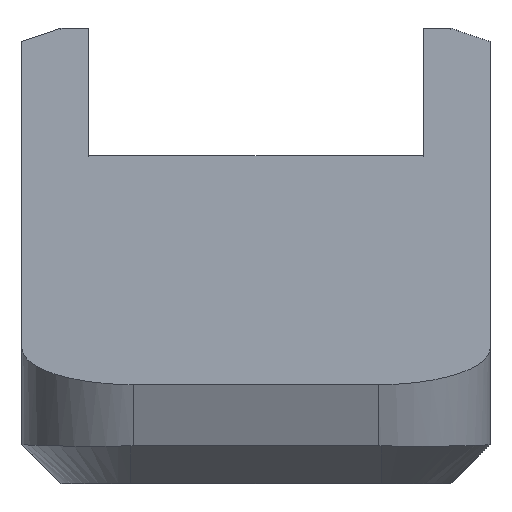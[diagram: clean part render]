
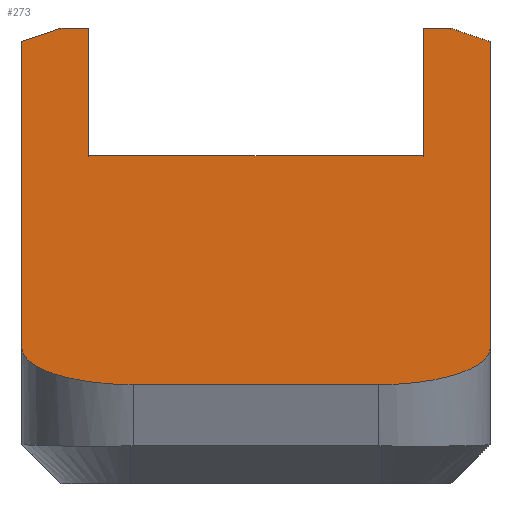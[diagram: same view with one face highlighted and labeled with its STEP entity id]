
A CAD part, front view. The second image highlights one B-rep face of the part: STEP entity #273.
In plain terms, the highlighted planar face has unit normal (0, -0.322, 0.947).
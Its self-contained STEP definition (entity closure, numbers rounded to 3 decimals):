
#121=CARTESIAN_POINT('',(-14.,609.2,-171.56));
#122=VERTEX_POINT('',#121);
#123=CARTESIAN_POINT('',(-12.,609.2,-171.56));
#124=VERTEX_POINT('',#123);
#125=CARTESIAN_POINT('',(-14.,609.2,-171.56));
#126=DIRECTION('',(1.,0.,-0.));
#127=VECTOR('',#126,2.);
#128=LINE('',#125,#127);
#129=EDGE_CURVE('',#122,#124,#128,.T.);
#147=CARTESIAN_POINT('',(12.,609.2,-171.56));
#148=VERTEX_POINT('',#147);
#155=CARTESIAN_POINT('',(14.,609.2,-171.56));
#156=VERTEX_POINT('',#155);
#157=CARTESIAN_POINT('',(12.,609.2,-171.56));
#158=DIRECTION('',(1.,0.,-0.));
#159=VECTOR('',#158,2.);
#160=LINE('',#157,#159);
#161=EDGE_CURVE('',#148,#156,#160,.T.);
#188=CARTESIAN_POINT('',(-17.,571.624,-184.344));
#189=DIRECTION('',(0.,0.322,-0.947));
#190=DIRECTION('',(0.,0.947,0.322));
#191=AXIS2_PLACEMENT_3D('',#188,#189,#190);
#192=PLANE('',#191);
#193=CARTESIAN_POINT('',(-12.,582.32,-180.705));
#194=VERTEX_POINT('',#193);
#195=CARTESIAN_POINT('',(12.,582.32,-180.705));
#196=VERTEX_POINT('',#195);
#197=CARTESIAN_POINT('',(-12.,582.32,-180.705));
#198=DIRECTION('',(1.,-0.,-0.));
#199=VECTOR('',#198,24.);
#200=LINE('',#197,#199);
#201=EDGE_CURVE('',#194,#196,#200,.T.);
#202=ORIENTED_EDGE('',*,*,#201,.F.);
#203=CARTESIAN_POINT('',(-12.,582.32,-180.705));
#204=DIRECTION('',(0.,0.947,0.322));
#205=VECTOR('',#204,28.393);
#206=LINE('',#203,#205);
#207=EDGE_CURVE('',#194,#124,#206,.T.);
#208=ORIENTED_EDGE('',*,*,#207,.T.);
#209=ORIENTED_EDGE('',*,*,#129,.F.);
#210=CARTESIAN_POINT('',(-16.8,606.4,-172.513));
#211=VERTEX_POINT('',#210);
#212=CARTESIAN_POINT('',(-14.,609.2,-171.56));
#213=DIRECTION('',(-0.687,-0.687,-0.234));
#214=VECTOR('',#213,4.073);
#215=LINE('',#212,#214);
#216=EDGE_CURVE('',#122,#211,#215,.T.);
#217=ORIENTED_EDGE('',*,*,#216,.T.);
#218=CARTESIAN_POINT('',(-16.8,541.619,-194.553));
#219=VERTEX_POINT('',#218);
#220=CARTESIAN_POINT('',(-16.8,541.619,-194.553));
#221=DIRECTION('',(0.,0.947,0.322));
#222=VECTOR('',#221,68.427);
#223=LINE('',#220,#222);
#224=EDGE_CURVE('',#219,#211,#223,.T.);
#225=ORIENTED_EDGE('',*,*,#224,.F.);
#226=CARTESIAN_POINT('',(-8.8,534.004,-197.144));
#227=VERTEX_POINT('',#226);
#228=CARTESIAN_POINT('',(-16.8,541.619,-194.553));
#229=CARTESIAN_POINT('',(-16.8,534.004,-197.144));
#230=CARTESIAN_POINT('',(-8.8,534.004,-197.144));
#231=(BOUNDED_CURVE()
B_SPLINE_CURVE(2,(#228,#229,#230),.UNSPECIFIED.,.F.,.F.)
B_SPLINE_CURVE_WITH_KNOTS((3,3),(270.,360.),.UNSPECIFIED.)
CURVE()
GEOMETRIC_REPRESENTATION_ITEM()
RATIONAL_B_SPLINE_CURVE((1.,0.707,1.))
REPRESENTATION_ITEM(''));
#232=EDGE_CURVE('',#219,#227,#231,.T.);
#233=ORIENTED_EDGE('',*,*,#232,.T.);
#234=CARTESIAN_POINT('',(8.8,534.004,-197.144));
#235=VERTEX_POINT('',#234);
#236=CARTESIAN_POINT('',(-8.8,534.004,-197.144));
#237=DIRECTION('',(1.,0.,-0.));
#238=VECTOR('',#237,17.6);
#239=LINE('',#236,#238);
#240=EDGE_CURVE('',#227,#235,#239,.T.);
#241=ORIENTED_EDGE('',*,*,#240,.T.);
#242=CARTESIAN_POINT('',(16.8,541.619,-194.553));
#243=VERTEX_POINT('',#242);
#244=CARTESIAN_POINT('',(8.8,534.004,-197.144));
#245=CARTESIAN_POINT('',(16.8,534.004,-197.144));
#246=CARTESIAN_POINT('',(16.8,541.619,-194.553));
#247=(BOUNDED_CURVE()
B_SPLINE_CURVE(2,(#244,#245,#246),.UNSPECIFIED.,.F.,.F.)
B_SPLINE_CURVE_WITH_KNOTS((3,3),(180.,270.),.UNSPECIFIED.)
CURVE()
GEOMETRIC_REPRESENTATION_ITEM()
RATIONAL_B_SPLINE_CURVE((1.,0.707,1.))
REPRESENTATION_ITEM(''));
#248=EDGE_CURVE('',#235,#243,#247,.T.);
#249=ORIENTED_EDGE('',*,*,#248,.T.);
#250=CARTESIAN_POINT('',(16.8,606.4,-172.513));
#251=VERTEX_POINT('',#250);
#252=CARTESIAN_POINT('',(16.8,541.619,-194.553));
#253=DIRECTION('',(0.,0.947,0.322));
#254=VECTOR('',#253,68.427);
#255=LINE('',#252,#254);
#256=EDGE_CURVE('',#243,#251,#255,.T.);
#257=ORIENTED_EDGE('',*,*,#256,.T.);
#258=CARTESIAN_POINT('',(16.8,606.4,-172.513));
#259=DIRECTION('',(-0.687,0.687,0.234));
#260=VECTOR('',#259,4.073);
#261=LINE('',#258,#260);
#262=EDGE_CURVE('',#251,#156,#261,.T.);
#263=ORIENTED_EDGE('',*,*,#262,.T.);
#264=ORIENTED_EDGE('',*,*,#161,.F.);
#265=CARTESIAN_POINT('',(12.,582.32,-180.705));
#266=DIRECTION('',(0.,0.947,0.322));
#267=VECTOR('',#266,28.393);
#268=LINE('',#265,#267);
#269=EDGE_CURVE('',#196,#148,#268,.T.);
#270=ORIENTED_EDGE('',*,*,#269,.F.);
#271=EDGE_LOOP('',(#202,#208,#209,#217,#225,#233,#241,#249,#257,#263,#264,#270));
#272=FACE_BOUND('',#271,.T.);
#273=ADVANCED_FACE('',(#272),#192,.F.);
